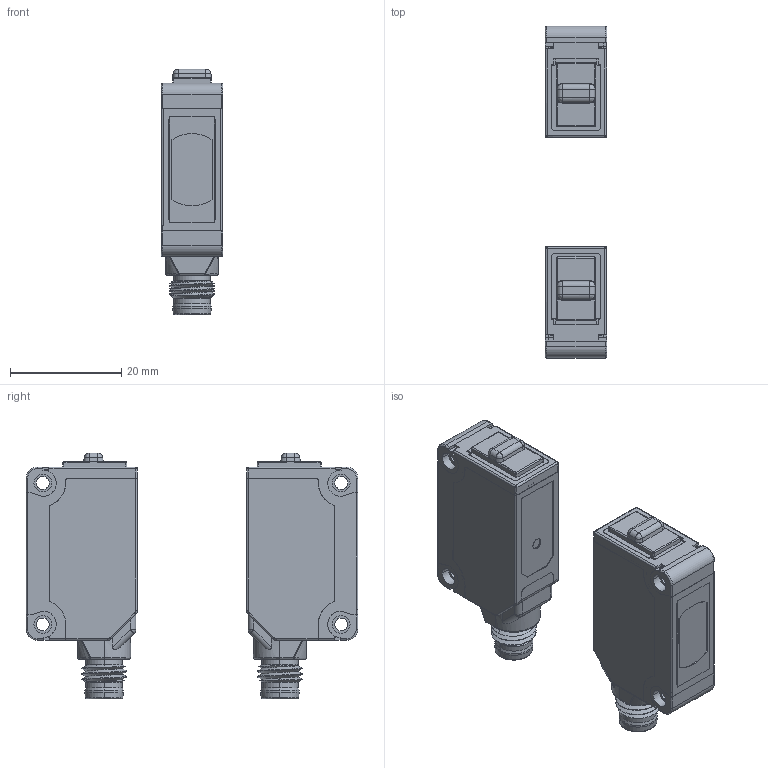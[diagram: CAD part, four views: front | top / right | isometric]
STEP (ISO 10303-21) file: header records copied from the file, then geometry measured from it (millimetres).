
FILE_DESCRIPTION (( 'STEP AP214' ), '1' );
FILE_NAME ('蚾饜极13-1.STEP', '2025-08-22T03:36:05', ( 'Windows User' ), ( 'P R C' ), 'SwSTEP 2.0', 'SolidWorks 2023', '' );
FILE_SCHEMA (( 'AUTOMOTIVE_DESIGN' ));
Length unit declared in the file: millimetre
Products named in the file (4): 装配体13.STEP; 装配体13-1; pf31V--T--1.STEP; PF31插件式-1.STEP
Assembly tree (4 placements, depth 3):
  装配体13-1
    装配体13.STEP  x2
      pf31V--T--1.STEP
      PF31插件式-1.STEP
Bounding box: 11.1 x 59.58 x 44.1 mm (x, y, z)
Volume: 9162.9 mm3; surface area: 20580.3 mm2
Topology: 52 solids, 56 shells, 3486 faces, 9398 edges, 6058 vertices
Faces by surface type: plane 2316, cylinder 854, bspline 158, cone 106, torus 32, sphere 20
Entity records: 60856 total; most frequent: CARTESIAN_POINT 18128, ORIENTED_EDGE 9330, DIRECTION 7923, EDGE_CURVE 4665, LINE 3389, VECTOR 3389, VERTEX_POINT 3029, AXIS2_PLACEMENT_3D 2267
